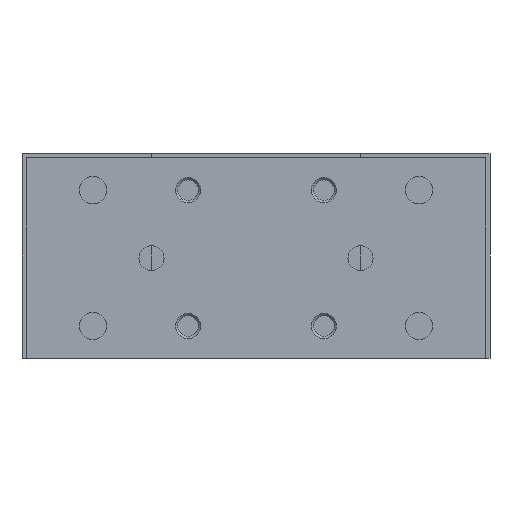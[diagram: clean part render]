
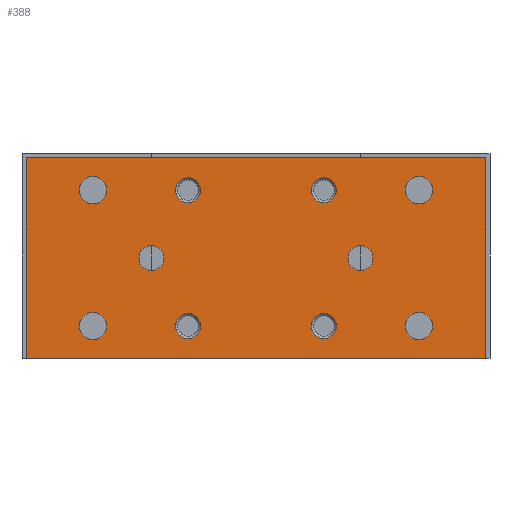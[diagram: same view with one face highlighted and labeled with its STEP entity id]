
A CAD part, left-side view. The second image highlights one B-rep face of the part: STEP entity #388.
In plain terms, the highlighted planar face has unit normal (-1, 0, 0).
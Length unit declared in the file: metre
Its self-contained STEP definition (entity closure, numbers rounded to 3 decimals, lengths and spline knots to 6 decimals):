
#388 = ADVANCED_FACE( '', ( #1023, #1024, #1025, #1026, #1027, #1028, #1029, #1030, #1031, #1032, #1033 ), #1034, .F. );
#1023 = FACE_BOUND( '', #2091, .T. );
#1024 = FACE_BOUND( '', #2092, .T. );
#1025 = FACE_BOUND( '', #2093, .T. );
#1026 = FACE_BOUND( '', #2094, .T. );
#1027 = FACE_BOUND( '', #2095, .T. );
#1028 = FACE_BOUND( '', #2096, .T. );
#1029 = FACE_BOUND( '', #2097, .T. );
#1030 = FACE_BOUND( '', #2098, .T. );
#1031 = FACE_BOUND( '', #2099, .T. );
#1032 = FACE_BOUND( '', #2100, .T. );
#1033 = FACE_OUTER_BOUND( '', #2101, .T. );
#1034 = PLANE( '', #2102 );
#2091 = EDGE_LOOP( '', ( #3284 ) );
#2092 = EDGE_LOOP( '', ( #3285 ) );
#2093 = EDGE_LOOP( '', ( #3286 ) );
#2094 = EDGE_LOOP( '', ( #3287 ) );
#2095 = EDGE_LOOP( '', ( #3288 ) );
#2096 = EDGE_LOOP( '', ( #3289 ) );
#2097 = EDGE_LOOP( '', ( #3290 ) );
#2098 = EDGE_LOOP( '', ( #3291 ) );
#2099 = EDGE_LOOP( '', ( #3292 ) );
#2100 = EDGE_LOOP( '', ( #3293 ) );
#2101 = EDGE_LOOP( '', ( #3294, #3295, #3296, #3297 ) );
#2102 = AXIS2_PLACEMENT_3D( '', #3298, #3299, #3300 );
#3284 = ORIENTED_EDGE( '', *, *, #5007, .T. );
#3285 = ORIENTED_EDGE( '', *, *, #5008, .T. );
#3286 = ORIENTED_EDGE( '', *, *, #5009, .T. );
#3287 = ORIENTED_EDGE( '', *, *, #5010, .T. );
#3288 = ORIENTED_EDGE( '', *, *, #5011, .F. );
#3289 = ORIENTED_EDGE( '', *, *, #5012, .T. );
#3290 = ORIENTED_EDGE( '', *, *, #5013, .T. );
#3291 = ORIENTED_EDGE( '', *, *, #5014, .F. );
#3292 = ORIENTED_EDGE( '', *, *, #5015, .F. );
#3293 = ORIENTED_EDGE( '', *, *, #5016, .T. );
#3294 = ORIENTED_EDGE( '', *, *, #5017, .T. );
#3295 = ORIENTED_EDGE( '', *, *, #5018, .T. );
#3296 = ORIENTED_EDGE( '', *, *, #5019, .T. );
#3297 = ORIENTED_EDGE( '', *, *, #5020, .T. );
#3298 = CARTESIAN_POINT( '', ( -0.07925, -0.055, -0.049 ) );
#3299 = DIRECTION( '', ( 1., 0., 0. ) );
#3300 = DIRECTION( '', ( 0., 1., 0. ) );
#5007 = EDGE_CURVE( '', #5785, #5785, #5786, .T. );
#5008 = EDGE_CURVE( '', #5787, #5787, #5788, .T. );
#5009 = EDGE_CURVE( '', #5789, #5789, #5790, .T. );
#5010 = EDGE_CURVE( '', #5791, #5791, #5792, .T. );
#5011 = EDGE_CURVE( '', #5793, #5793, #5794, .T. );
#5012 = EDGE_CURVE( '', #5795, #5795, #5796, .T. );
#5013 = EDGE_CURVE( '', #5797, #5797, #5798, .T. );
#5014 = EDGE_CURVE( '', #5799, #5799, #5800, .T. );
#5015 = EDGE_CURVE( '', #5801, #5801, #5802, .T. );
#5016 = EDGE_CURVE( '', #5803, #5803, #5804, .T. );
#5017 = EDGE_CURVE( '', #5805, #5806, #5807, .T. );
#5018 = EDGE_CURVE( '', #5806, #5808, #5809, .T. );
#5019 = EDGE_CURVE( '', #5808, #5810, #5811, .T. );
#5020 = EDGE_CURVE( '', #5810, #5805, #5812, .T. );
#5785 = VERTEX_POINT( '', #6892 );
#5786 = CIRCLE( '', #6893, 0.0033 );
#5787 = VERTEX_POINT( '', #6894 );
#5788 = CIRCLE( '', #6895, 0.0033 );
#5789 = VERTEX_POINT( '', #6896 );
#5790 = CIRCLE( '', #6897, 0.0033 );
#5791 = VERTEX_POINT( '', #6898 );
#5792 = CIRCLE( '', #6899, 0.0033 );
#5793 = VERTEX_POINT( '', #6900 );
#5794 = CIRCLE( '', #6901, 0.003 );
#5795 = VERTEX_POINT( '', #6902 );
#5796 = CIRCLE( '', #6903, 0.003 );
#5797 = VERTEX_POINT( '', #6904 );
#5798 = CIRCLE( '', #6905, 0.003 );
#5799 = VERTEX_POINT( '', #6906 );
#5800 = CIRCLE( '', #6907, 0.003 );
#5801 = VERTEX_POINT( '', #6908 );
#5802 = CIRCLE( '', #6909, 0.003 );
#5803 = VERTEX_POINT( '', #6910 );
#5804 = CIRCLE( '', #6911, 0.003 );
#5805 = VERTEX_POINT( '', #6912 );
#5806 = VERTEX_POINT( '', #6913 );
#5807 = LINE( '', #6914, #6915 );
#5808 = VERTEX_POINT( '', #6916 );
#5809 = LINE( '', #6917, #6918 );
#5810 = VERTEX_POINT( '', #6919 );
#5811 = LINE( '', #6920, #6921 );
#5812 = LINE( '', #6922, #6923 );
#6892 = CARTESIAN_POINT( '', ( -0.07925, -0.0357, -0.04125 ) );
#6893 = AXIS2_PLACEMENT_3D( '', #8061, #8062, #8063 );
#6894 = CARTESIAN_POINT( '', ( -0.07925, 0.0423, -0.04125 ) );
#6895 = AXIS2_PLACEMENT_3D( '', #8064, #8065, #8066 );
#6896 = CARTESIAN_POINT( '', ( -0.07925, -0.0357, -0.00875 ) );
#6897 = AXIS2_PLACEMENT_3D( '', #8067, #8068, #8069 );
#6898 = CARTESIAN_POINT( '', ( -0.07925, 0.0423, -0.00875 ) );
#6899 = AXIS2_PLACEMENT_3D( '', #8070, #8071, #8072 );
#6900 = CARTESIAN_POINT( '', ( -0.07925, -0.025, -0.022 ) );
#6901 = AXIS2_PLACEMENT_3D( '', #8073, #8074, #8075 );
#6902 = CARTESIAN_POINT( '', ( -0.07925, 0.025, -0.022 ) );
#6903 = AXIS2_PLACEMENT_3D( '', #8076, #8077, #8078 );
#6904 = CARTESIAN_POINT( '', ( -0.07925, -0.01325, -0.04125 ) );
#6905 = AXIS2_PLACEMENT_3D( '', #8079, #8080, #8081 );
#6906 = CARTESIAN_POINT( '', ( -0.07925, 0.01325, -0.04125 ) );
#6907 = AXIS2_PLACEMENT_3D( '', #8082, #8083, #8084 );
#6908 = CARTESIAN_POINT( '', ( -0.07925, -0.01325, -0.00875 ) );
#6909 = AXIS2_PLACEMENT_3D( '', #8085, #8086, #8087 );
#6910 = CARTESIAN_POINT( '', ( -0.07925, 0.01325, -0.00875 ) );
#6911 = AXIS2_PLACEMENT_3D( '', #8088, #8089, #8090 );
#6912 = CARTESIAN_POINT( '', ( -0.07925, -0.055, -0.049 ) );
#6913 = CARTESIAN_POINT( '', ( -0.07925, -0.055, -0.001 ) );
#6914 = CARTESIAN_POINT( '', ( -0.07925, -0.055, -0.049 ) );
#6915 = VECTOR( '', #8091, 1. );
#6916 = CARTESIAN_POINT( '', ( -0.07925, 0.055, -0.001 ) );
#6917 = CARTESIAN_POINT( '', ( -0.07925, -0.055, -0.001 ) );
#6918 = VECTOR( '', #8092, 1. );
#6919 = CARTESIAN_POINT( '', ( -0.07925, 0.055, -0.049 ) );
#6920 = CARTESIAN_POINT( '', ( -0.07925, 0.055, -0.001 ) );
#6921 = VECTOR( '', #8093, 1. );
#6922 = CARTESIAN_POINT( '', ( -0.07925, 0.055, -0.049 ) );
#6923 = VECTOR( '', #8094, 1. );
#8061 = CARTESIAN_POINT( '', ( -0.07925, -0.039, -0.04125 ) );
#8062 = DIRECTION( '', ( 1., 0., 0. ) );
#8063 = DIRECTION( '', ( 0., 1., 0. ) );
#8064 = CARTESIAN_POINT( '', ( -0.07925, 0.039, -0.04125 ) );
#8065 = DIRECTION( '', ( 1., 0., 0. ) );
#8066 = DIRECTION( '', ( 0., 1., 0. ) );
#8067 = CARTESIAN_POINT( '', ( -0.07925, -0.039, -0.00875 ) );
#8068 = DIRECTION( '', ( 1., 0., 0. ) );
#8069 = DIRECTION( '', ( 0., 1., 0. ) );
#8070 = CARTESIAN_POINT( '', ( -0.07925, 0.039, -0.00875 ) );
#8071 = DIRECTION( '', ( 1., 0., 0. ) );
#8072 = DIRECTION( '', ( 0., 1., 0. ) );
#8073 = CARTESIAN_POINT( '', ( -0.07925, -0.025, -0.025 ) );
#8074 = DIRECTION( '', ( -1., 0., 0. ) );
#8075 = DIRECTION( '', ( 0., 0., 1. ) );
#8076 = CARTESIAN_POINT( '', ( -0.07925, 0.025, -0.025 ) );
#8077 = DIRECTION( '', ( 1., 0., 0. ) );
#8078 = DIRECTION( '', ( 0., 0., 1. ) );
#8079 = CARTESIAN_POINT( '', ( -0.07925, -0.01625, -0.04125 ) );
#8080 = DIRECTION( '', ( 1., 0., 0. ) );
#8081 = DIRECTION( '', ( 0., 1., 0. ) );
#8082 = CARTESIAN_POINT( '', ( -0.07925, 0.01625, -0.04125 ) );
#8083 = DIRECTION( '', ( -1., 0., 0. ) );
#8084 = DIRECTION( '', ( 0., -1., 0. ) );
#8085 = CARTESIAN_POINT( '', ( -0.07925, -0.01625, -0.00875 ) );
#8086 = DIRECTION( '', ( -1., 0., 0. ) );
#8087 = DIRECTION( '', ( 0., 1., 0. ) );
#8088 = CARTESIAN_POINT( '', ( -0.07925, 0.01625, -0.00875 ) );
#8089 = DIRECTION( '', ( 1., 0., 0. ) );
#8090 = DIRECTION( '', ( 0., -1., 0. ) );
#8091 = DIRECTION( '', ( 0., 0., 1. ) );
#8092 = DIRECTION( '', ( 0., 1., 0. ) );
#8093 = DIRECTION( '', ( 0., 0., -1. ) );
#8094 = DIRECTION( '', ( 0., -1., 0. ) );
